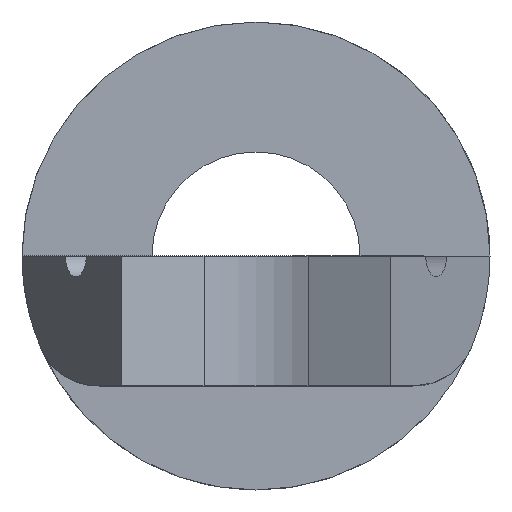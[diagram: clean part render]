
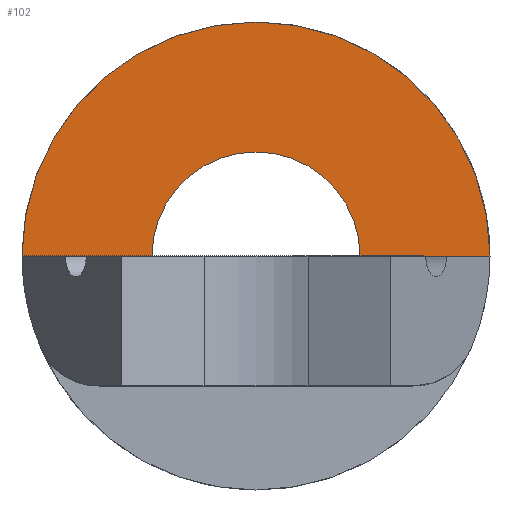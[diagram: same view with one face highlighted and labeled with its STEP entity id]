
A CAD part, left-side view. The second image highlights one B-rep face of the part: STEP entity #102.
In plain terms, the highlighted planar face has unit normal (-1, 0, 0).
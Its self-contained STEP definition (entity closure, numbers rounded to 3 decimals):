
#102=ADVANCED_FACE('',(#181),#182,.T.);
#181=FACE_OUTER_BOUND('',#262,.T.);
#182=PLANE('',#263);
#262=EDGE_LOOP('',(#472,#473,#474,#475));
#263=AXIS2_PLACEMENT_3D('',#476,#477,#478);
#472=ORIENTED_EDGE('',*,*,#502,.F.);
#473=ORIENTED_EDGE('',*,*,#496,.T.);
#474=ORIENTED_EDGE('',*,*,#501,.F.);
#475=ORIENTED_EDGE('',*,*,#535,.T.);
#476=CARTESIAN_POINT('',(18.0,0.0,20.));
#477=DIRECTION('',(-1.0,0.0,0.0));
#478=DIRECTION('',(0.0,0.0,1.0));
#496=EDGE_CURVE('',#569,#571,#573,.F.);
#501=EDGE_CURVE('',#580,#571,#582,.T.);
#502=EDGE_CURVE('',#569,#583,#584,.T.);
#535=EDGE_CURVE('',#580,#583,#643,.T.);
#569=VERTEX_POINT('',#688);
#571=VERTEX_POINT('',#691);
#573=CIRCLE('',#694,20.0);
#580=VERTEX_POINT('',#702);
#582=LINE('',#705,#706);
#583=VERTEX_POINT('',#707);
#584=LINE('',#708,#709);
#643=CIRCLE('',#784,45.0);
#688=CARTESIAN_POINT('',(18.0,20.0,20.));
#691=CARTESIAN_POINT('',(18.0,-20.0,20.));
#694=AXIS2_PLACEMENT_3D('',#895,#896,#897);
#702=CARTESIAN_POINT('',(18.0,-45.0,20.));
#705=CARTESIAN_POINT('',(18.0,-45.0,20.));
#706=VECTOR('',#906,1.0);
#707=CARTESIAN_POINT('',(18.0,45.0,20.));
#708=CARTESIAN_POINT('',(18.0,-45.0,20.));
#709=VECTOR('',#907,1.0);
#784=AXIS2_PLACEMENT_3D('',#972,#973,#974);
#895=CARTESIAN_POINT('',(18.0,0.0,20.));
#896=DIRECTION('',(-1.0,0.0,0.0));
#897=DIRECTION('',(0.0,0.0,1.0));
#906=DIRECTION('',(0.0,1.0,0.));
#907=DIRECTION('',(0.0,1.0,0.));
#972=CARTESIAN_POINT('',(18.0,0.0,20.));
#973=DIRECTION('',(-1.0,0.0,0.0));
#974=DIRECTION('',(0.0,0.0,1.0));
